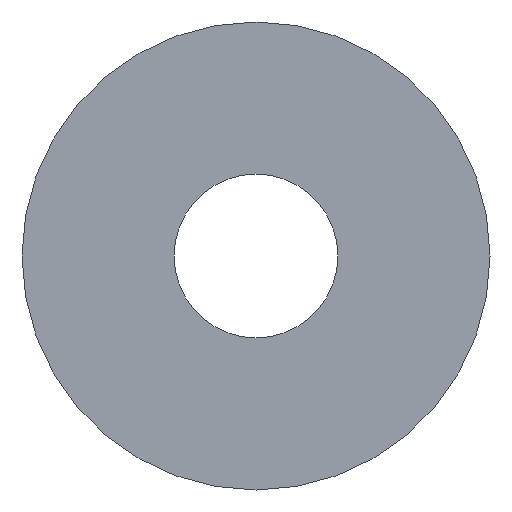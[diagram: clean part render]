
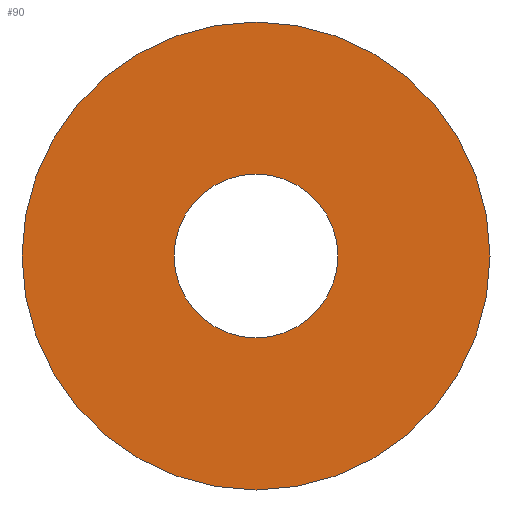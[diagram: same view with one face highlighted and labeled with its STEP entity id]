
A CAD part, front view. The second image highlights one B-rep face of the part: STEP entity #90.
In plain terms, the highlighted planar face has unit normal (0, -1, 0).
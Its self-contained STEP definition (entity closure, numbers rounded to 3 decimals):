
#1=CARTESIAN_POINT('',(0.,0.,0.));
#2=DIRECTION('',(0.,1.,0.));
#3=DIRECTION('',(1.,0.,0.));
#4=AXIS2_PLACEMENT_3D('',#1,#2,#3);
#6=CARTESIAN_POINT('',(0.,0.,0.));
#7=DIRECTION('',(0.,1.,0.));
#8=DIRECTION('',(-1.,0.,0.));
#9=AXIS2_PLACEMENT_3D('',#6,#7,#8);
#11=CARTESIAN_POINT('',(0.,0.,0.));
#12=DIRECTION('',(0.,-1.,0.));
#13=DIRECTION('',(1.,0.,0.));
#14=AXIS2_PLACEMENT_3D('',#11,#12,#13);
#16=CARTESIAN_POINT('',(0.,0.,0.));
#17=DIRECTION('',(0.,-1.,0.));
#18=DIRECTION('',(-1.,0.,0.));
#19=AXIS2_PLACEMENT_3D('',#16,#17,#18);
#57=CARTESIAN_POINT('',(10.,0.,0.));
#58=CARTESIAN_POINT('',(-10.,0.,0.));
#59=VERTEX_POINT('',#57);
#60=VERTEX_POINT('',#58);
#61=CARTESIAN_POINT('',(3.5,0.,0.));
#62=CARTESIAN_POINT('',(-3.5,0.,0.));
#63=VERTEX_POINT('',#61);
#64=VERTEX_POINT('',#62);
#73=CARTESIAN_POINT('',(0.,0.,0.));
#74=DIRECTION('',(0.,1.,0.));
#75=DIRECTION('',(1.,0.,0.));
#76=AXIS2_PLACEMENT_3D('',#73,#74,#75);
#77=PLANE('',#76);
#79=ORIENTED_EDGE('',*,*,#78,.T.);
#81=ORIENTED_EDGE('',*,*,#80,.T.);
#82=EDGE_LOOP('',(#79,#81));
#83=FACE_OUTER_BOUND('',#82,.F.);
#85=ORIENTED_EDGE('',*,*,#84,.T.);
#87=ORIENTED_EDGE('',*,*,#86,.T.);
#88=EDGE_LOOP('',(#85,#87));
#89=FACE_BOUND('',#88,.F.);
#90=ADVANCED_FACE('',(#83,#89),#77,.F.);
#5=CIRCLE('',#4,10.);
#10=CIRCLE('',#9,10.);
#15=CIRCLE('',#14,3.5);
#20=CIRCLE('',#19,3.5);
#78=EDGE_CURVE('',#59,#60,#5,.T.);
#80=EDGE_CURVE('',#60,#59,#10,.T.);
#84=EDGE_CURVE('',#63,#64,#15,.T.);
#86=EDGE_CURVE('',#64,#63,#20,.T.);
